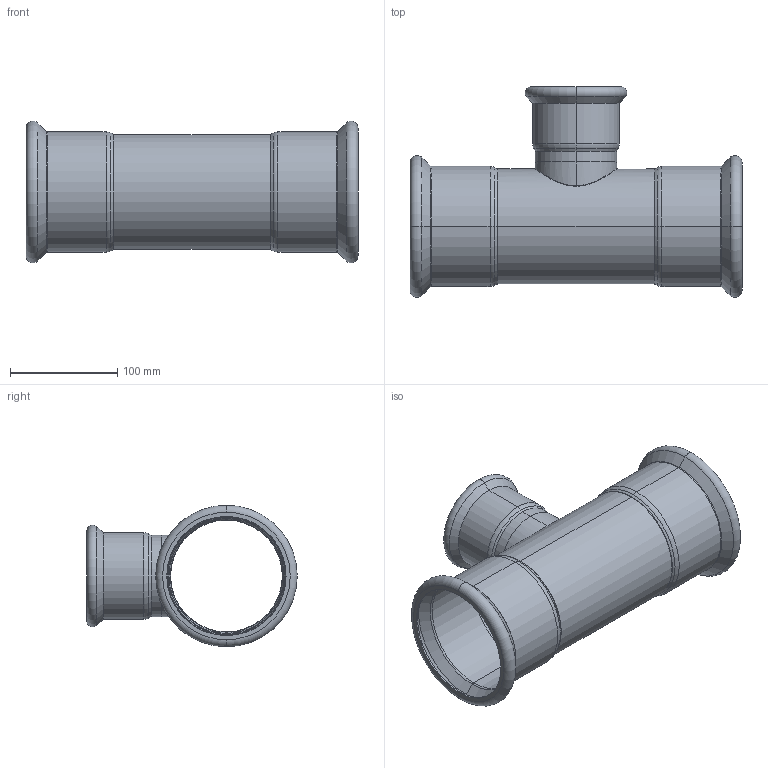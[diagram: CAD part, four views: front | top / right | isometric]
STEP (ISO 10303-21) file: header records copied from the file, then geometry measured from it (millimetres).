
FILE_DESCRIPTION (( 'STEP AP203' ), '1' );
FILE_NAME ('GDA5228.STEP', '2019-01-12T06:27:18', ( '' ), ( '' ), 'SwSTEP 2.0', 'SolidWorks 2015', '' );
FILE_SCHEMA (( 'CONFIG_CONTROL_DESIGN' ));
Length unit declared in the file: millimetre
Products named in the file (3): T(R)-¢ñ-108¡Á76.1''; T-ｉ-01-76.1; GDA5228
Assembly tree (2 placements, depth 2):
  GDA5228
    T(R)-¢ñ-108¡Á76.1''
    T-ｉ-01-76.1
Bounding box: 309 x 195.89 x 131.78 mm (x, y, z)
Volume: 210298.8 mm3; surface area: 267615.8 mm2
Topology: 2 solids, 2 shells, 110 faces, 226 edges, 124 vertices
Faces by surface type: torus 44, cylinder 30, cone 24, plane 8, bspline 4
Entity records: 4560 total; most frequent: CARTESIAN_POINT 1858, DIRECTION 596, ORIENTED_EDGE 452, AXIS2_PLACEMENT_3D 271, EDGE_CURVE 226, CIRCLE 160, VERTEX_POINT 124, EDGE_LOOP 120
